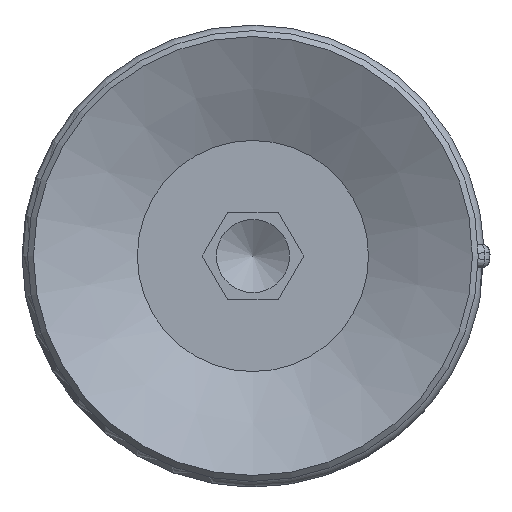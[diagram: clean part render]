
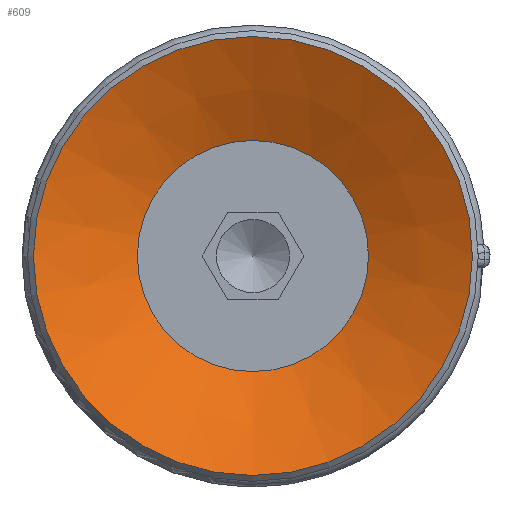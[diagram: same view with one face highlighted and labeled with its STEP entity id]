
A CAD part, front view. The second image highlights one B-rep face of the part: STEP entity #609.
In plain terms, the highlighted conical face has half-angle 64 degrees and reference radius 3.95 mm.
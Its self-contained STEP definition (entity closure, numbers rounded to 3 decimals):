
#609=ADVANCED_FACE('',(#874,#875),#876,.F.);
#874=FACE_BOUND('',#1289,.T.);
#875=FACE_OUTER_BOUND('',#1290,.T.);
#876=CONICAL_SURFACE('',#1291,3.95,1.117);
#1289=EDGE_LOOP('',(#2021));
#1290=EDGE_LOOP('',(#2022));
#1291=AXIS2_PLACEMENT_3D('',#2023,#2024,#2025);
#2021=ORIENTED_EDGE('',*,*,#2419,.F.);
#2022=ORIENTED_EDGE('',*,*,#2420,.T.);
#2023=CARTESIAN_POINT('',(0.0,-29.404,-47.168));
#2024=DIRECTION('',(-0.0,0.,1.0));
#2025=DIRECTION('',(0.0,-1.0,0.));
#2419=EDGE_CURVE('',#2768,#2768,#2769,.T.);
#2420=EDGE_CURVE('',#2770,#2770,#2771,.T.);
#2768=VERTEX_POINT('',#3739);
#2769=CIRCLE('',#3740,3.95);
#2770=VERTEX_POINT('',#3741);
#2771=CIRCLE('',#3742,7.5);
#3739=CARTESIAN_POINT('',(0.0,-33.354,-47.168));
#3740=AXIS2_PLACEMENT_3D('',#4119,#4120,#4121);
#3741=CARTESIAN_POINT('',(0.0,-36.904,-45.437));
#3742=AXIS2_PLACEMENT_3D('',#4122,#4123,#4124);
#4119=CARTESIAN_POINT('',(0.0,-29.404,-47.168));
#4120=DIRECTION('',(0.0,0.,1.0));
#4121=DIRECTION('',(0.0,-1.0,0.));
#4122=CARTESIAN_POINT('',(0.0,-29.404,-45.437));
#4123=DIRECTION('',(0.0,0.,1.0));
#4124=DIRECTION('',(0.0,-1.0,0.));
